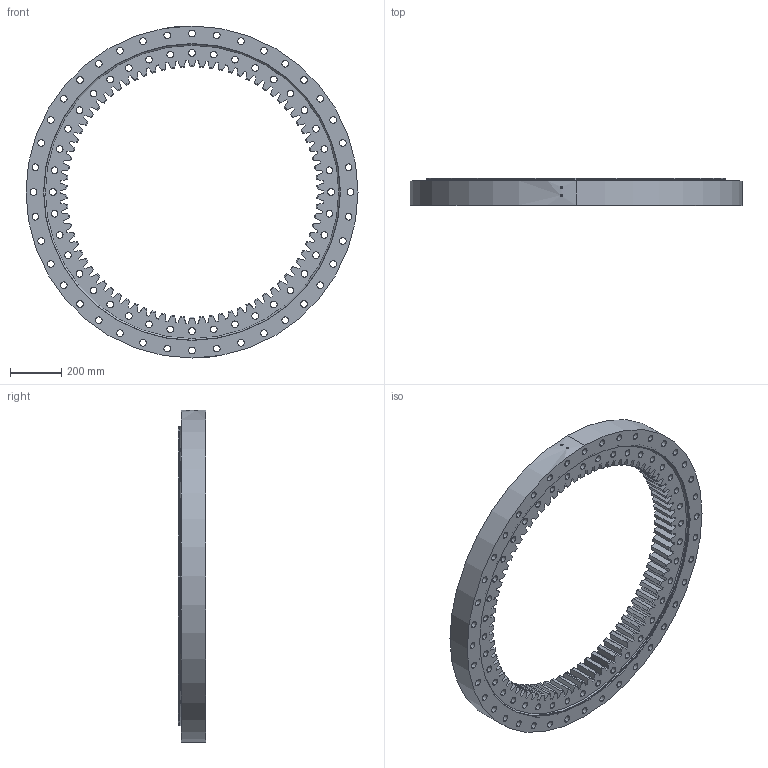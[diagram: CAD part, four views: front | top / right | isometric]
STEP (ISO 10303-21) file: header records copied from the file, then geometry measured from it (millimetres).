
FILE_DESCRIPTION (( 'STEP AP214' ), '1' );
FILE_NAME ('B2225-1-1290AA.STEP', '2022-11-24T07:06:20', ( '' ), ( '' ), 'SwSTEP 2.0', 'SolidWorks 2020', '' );
FILE_SCHEMA (( 'AUTOMOTIVE_DESIGN' ));
Length unit declared in the file: millimetre
Products named in the file (1): B2225-1-1290AA
Bounding box: 1290 x 105 x 1290 mm (x, y, z)
Volume: 46343307.5 mm3; surface area: 3618783.2 mm2
Topology: 4 solids, 4 shells, 719 faces, 2098 edges, 1397 vertices
Faces by surface type: cylinder 281, plane 264, cone 174
Entity records: 25226 total; most frequent: CARTESIAN_POINT 5883, ORIENTED_EDGE 4196, DIRECTION 3837, EDGE_CURVE 2098, AXIS2_PLACEMENT_3D 1445, VERTEX_POINT 1397, VECTOR 947, LINE 947
